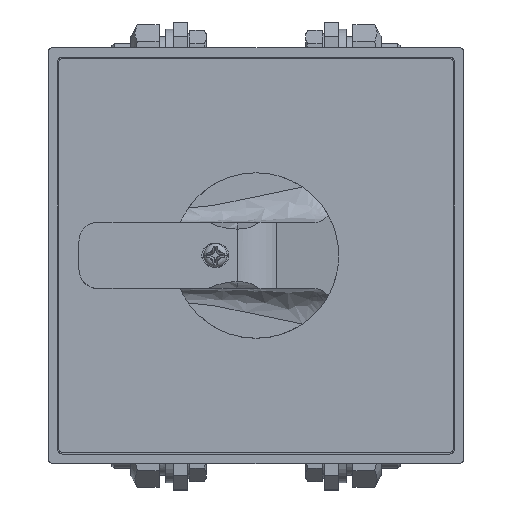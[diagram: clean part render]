
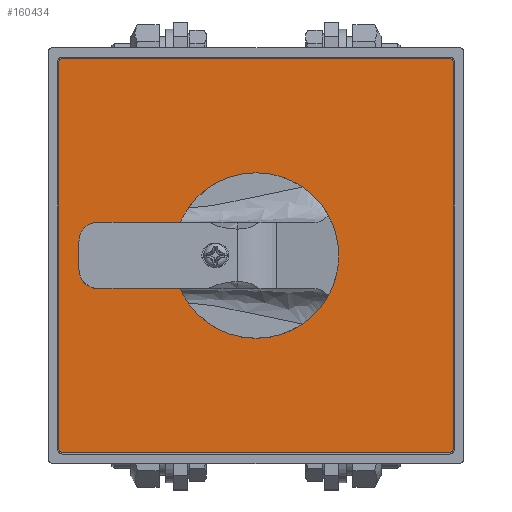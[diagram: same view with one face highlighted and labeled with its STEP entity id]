
A CAD part, top view. The second image highlights one B-rep face of the part: STEP entity #160434.
In plain terms, the highlighted planar face has unit normal (0, 0, 1).
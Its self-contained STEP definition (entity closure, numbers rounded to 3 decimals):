
#2061 = VECTOR ( 'NONE', #41014, 1000. ) ;
#2668 = VERTEX_POINT ( 'NONE', #161463 ) ;
#7314 = CARTESIAN_POINT ( 'NONE',  ( -41.75, -40.75, 81.125 ) ) ;
#7802 = VECTOR ( 'NONE', #31609, 1000. ) ;
#9820 = ORIENTED_EDGE ( 'NONE', *, *, #29137, .T. ) ;
#10724 = DIRECTION ( 'NONE',  ( -1., 0., 0. ) ) ;
#13473 = CARTESIAN_POINT ( 'NONE',  ( -41.75, 40.75, 81.125 ) ) ;
#13636 = DIRECTION ( 'NONE',  ( 0., 0., 1. ) ) ;
#13653 = LINE ( 'NONE', #13473, #46907 ) ;
#15312 = CARTESIAN_POINT ( 'NONE',  ( -40.75, -41.75, 81.125 ) ) ;
#15705 = EDGE_CURVE ( 'NONE', #27933, #111449, #27332, .T. ) ;
#16733 = AXIS2_PLACEMENT_3D ( 'NONE', #109742, #85655, #96121 ) ;
#23876 = DIRECTION ( 'NONE',  ( 0., 0., 1. ) ) ;
#24160 = CARTESIAN_POINT ( 'NONE',  ( 0., 0., 81.125 ) ) ;
#26032 = AXIS2_PLACEMENT_3D ( 'NONE', #74489, #23876, #149164 ) ;
#27019 = AXIS2_PLACEMENT_3D ( 'NONE', #146235, #71009, #48117 ) ;
#27332 = CIRCLE ( 'NONE', #27019, 1. ) ;
#27344 = DIRECTION ( 'NONE',  ( 1., 0., 0. ) ) ;
#27933 = VERTEX_POINT ( 'NONE', #7314 ) ;
#28890 = DIRECTION ( 'NONE',  ( 0., 0., 1. ) ) ;
#29137 = EDGE_CURVE ( 'NONE', #2668, #41002, #48800, .T. ) ;
#29334 = EDGE_CURVE ( 'NONE', #31302, #148589, #152196, .T. ) ;
#31302 = VERTEX_POINT ( 'NONE', #107238 ) ;
#31609 = DIRECTION ( 'NONE',  ( 0., 1., 0. ) ) ;
#33202 = VERTEX_POINT ( 'NONE', #93806 ) ;
#33682 = VERTEX_POINT ( 'NONE', #139703 ) ;
#34809 = CARTESIAN_POINT ( 'NONE',  ( -40.75, 40.75, 81.125 ) ) ;
#38606 = VERTEX_POINT ( 'NONE', #76783 ) ;
#40309 = AXIS2_PLACEMENT_3D ( 'NONE', #65966, #28890, #89432 ) ;
#41002 = VERTEX_POINT ( 'NONE', #50847 ) ;
#41014 = DIRECTION ( 'NONE',  ( 1., 0., 0. ) ) ;
#41087 = EDGE_CURVE ( 'NONE', #111449, #104168, #107415, .T. ) ;
#42984 = DIRECTION ( 'NONE',  ( -1., 0., 0. ) ) ;
#44063 = CARTESIAN_POINT ( 'NONE',  ( -40.75, 41.75, 81.125 ) ) ;
#46907 = VECTOR ( 'NONE', #113317, 1000. ) ;
#48117 = DIRECTION ( 'NONE',  ( -1., 0., 0. ) ) ;
#48800 = LINE ( 'NONE', #93159, #7802 ) ;
#48974 = EDGE_CURVE ( 'NONE', #33682, #38606, #50382, .T. ) ;
#50382 = CIRCLE ( 'NONE', #40309, 12.5 ) ;
#50847 = CARTESIAN_POINT ( 'NONE',  ( 41.75, 40.75, 81.125 ) ) ;
#53711 = CARTESIAN_POINT ( 'NONE',  ( 40.75, -40.75, 81.125 ) ) ;
#54388 = ORIENTED_EDGE ( 'NONE', *, *, #150644, .T. ) ;
#56512 = ORIENTED_EDGE ( 'NONE', *, *, #41087, .T. ) ;
#62466 = CIRCLE ( 'NONE', #62762, 1. ) ;
#62762 = AXIS2_PLACEMENT_3D ( 'NONE', #53711, #103360, #142513 ) ;
#64966 = EDGE_CURVE ( 'NONE', #148589, #27933, #13653, .T. ) ;
#65966 = CARTESIAN_POINT ( 'NONE',  ( 0., 0., 81.125 ) ) ;
#67573 = ORIENTED_EDGE ( 'NONE', *, *, #64966, .T. ) ;
#70964 = PLANE ( 'NONE',  #16733 ) ;
#71009 = DIRECTION ( 'NONE',  ( 0., 0., 1. ) ) ;
#72723 = EDGE_LOOP ( 'NONE', ( #82713, #130187 ) ) ;
#74489 = CARTESIAN_POINT ( 'NONE',  ( 40.75, 40.75, 81.125 ) ) ;
#74775 = CARTESIAN_POINT ( 'NONE',  ( -40.75, -41.75, 81.125 ) ) ;
#76783 = CARTESIAN_POINT ( 'NONE',  ( 12.5, 0., 81.125 ) ) ;
#79875 = ORIENTED_EDGE ( 'NONE', *, *, #15705, .T. ) ;
#82713 = ORIENTED_EDGE ( 'NONE', *, *, #48974, .F. ) ;
#85655 = DIRECTION ( 'NONE',  ( 0., 0., 1. ) ) ;
#89432 = DIRECTION ( 'NONE',  ( 1., 0., 0. ) ) ;
#93159 = CARTESIAN_POINT ( 'NONE',  ( 41.75, 40.75, 81.125 ) ) ;
#93806 = CARTESIAN_POINT ( 'NONE',  ( 40.75, 41.75, 81.125 ) ) ;
#95481 = AXIS2_PLACEMENT_3D ( 'NONE', #24160, #13636, #27344 ) ;
#96121 = DIRECTION ( 'NONE',  ( 1., 0., 0. ) ) ;
#99787 = ORIENTED_EDGE ( 'NONE', *, *, #111792, .T. ) ;
#100563 = AXIS2_PLACEMENT_3D ( 'NONE', #34809, #122009, #10724 ) ;
#103360 = DIRECTION ( 'NONE',  ( 0., 0., 1. ) ) ;
#104168 = VERTEX_POINT ( 'NONE', #131017 ) ;
#106875 = FACE_BOUND ( 'NONE', #72723, .T. ) ;
#107238 = CARTESIAN_POINT ( 'NONE',  ( -40.75, 41.75, 81.125 ) ) ;
#107415 = LINE ( 'NONE', #15312, #2061 ) ;
#109742 = CARTESIAN_POINT ( 'NONE',  ( 40.75, 40.75, 81.125 ) ) ;
#111449 = VERTEX_POINT ( 'NONE', #74775 ) ;
#111792 = EDGE_CURVE ( 'NONE', #33202, #31302, #146870, .T. ) ;
#113317 = DIRECTION ( 'NONE',  ( 0., -1., 0. ) ) ;
#120050 = CIRCLE ( 'NONE', #95481, 12.5 ) ;
#122009 = DIRECTION ( 'NONE',  ( 0., 0., 1. ) ) ;
#123163 = EDGE_CURVE ( 'NONE', #38606, #33682, #120050, .T. ) ;
#130187 = ORIENTED_EDGE ( 'NONE', *, *, #123163, .F. ) ;
#131017 = CARTESIAN_POINT ( 'NONE',  ( 40.75, -41.75, 81.125 ) ) ;
#134782 = CIRCLE ( 'NONE', #26032, 1. ) ;
#138229 = ORIENTED_EDGE ( 'NONE', *, *, #29334, .T. ) ;
#139703 = CARTESIAN_POINT ( 'NONE',  ( -12.5, 0., 81.125 ) ) ;
#139969 = FACE_OUTER_BOUND ( 'NONE', #144681, .T. ) ;
#141043 = VECTOR ( 'NONE', #42984, 1000. ) ;
#142513 = DIRECTION ( 'NONE',  ( -1., 0., 0. ) ) ;
#144681 = EDGE_LOOP ( 'NONE', ( #152003, #99787, #138229, #67573, #79875, #56512, #54388, #9820 ) ) ;
#146235 = CARTESIAN_POINT ( 'NONE',  ( -40.75, -40.75, 81.125 ) ) ;
#146870 = LINE ( 'NONE', #44063, #141043 ) ;
#148589 = VERTEX_POINT ( 'NONE', #160448 ) ;
#149164 = DIRECTION ( 'NONE',  ( 1., 0., 0. ) ) ;
#150644 = EDGE_CURVE ( 'NONE', #104168, #2668, #62466, .T. ) ;
#152003 = ORIENTED_EDGE ( 'NONE', *, *, #154507, .T. ) ;
#152196 = CIRCLE ( 'NONE', #100563, 1. ) ;
#154507 = EDGE_CURVE ( 'NONE', #41002, #33202, #134782, .T. ) ;
#160434 = ADVANCED_FACE ( 'NONE', ( #139969, #106875 ), #70964, .T. ) ;
#160448 = CARTESIAN_POINT ( 'NONE',  ( -41.75, 40.75, 81.125 ) ) ;
#161463 = CARTESIAN_POINT ( 'NONE',  ( 41.75, -40.75, 81.125 ) ) ;
